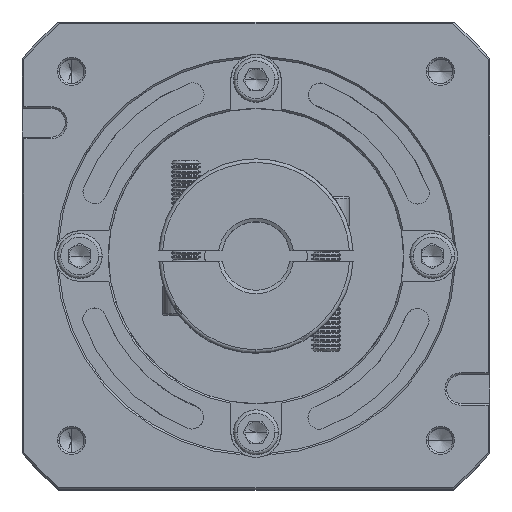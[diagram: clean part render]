
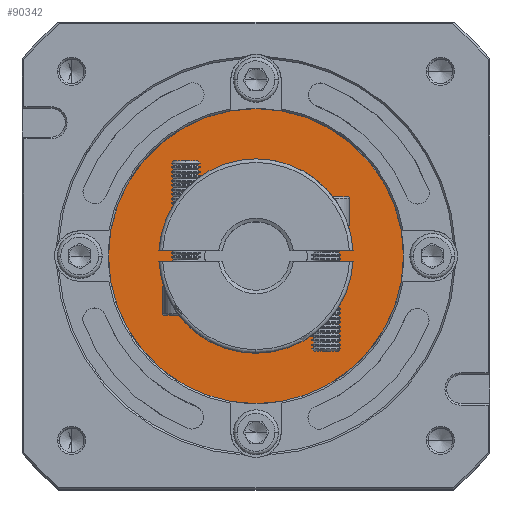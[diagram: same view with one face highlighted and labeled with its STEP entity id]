
A CAD part, top view. The second image highlights one B-rep face of the part: STEP entity #90342.
In plain terms, the highlighted planar face has unit normal (0, 0, 1).
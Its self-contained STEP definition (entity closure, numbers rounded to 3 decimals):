
#69 = ORIENTED_EDGE ( 'NONE', *, *, #48919, .T. ) ;
#1791 = DIRECTION ( 'NONE',  ( 1., 0., 0. ) ) ;
#2302 = ORIENTED_EDGE ( 'NONE', *, *, #65030, .T. ) ;
#12248 = VERTEX_POINT ( 'NONE', #132987 ) ;
#16901 = DIRECTION ( 'NONE',  ( 0., 0., 1. ) ) ;
#18643 = CIRCLE ( 'NONE', #76705, 20. ) ;
#19437 = DIRECTION ( 'NONE',  ( 0., 0., 1. ) ) ;
#21694 = VERTEX_POINT ( 'NONE', #96250 ) ;
#29226 = VERTEX_POINT ( 'NONE', #132739 ) ;
#29517 = CARTESIAN_POINT ( 'NONE',  ( 53.908, 53.71, -30.444 ) ) ;
#34220 = AXIS2_PLACEMENT_3D ( 'NONE', #112854, #16901, #91747 ) ;
#35197 = EDGE_CURVE ( 'NONE', #21694, #29226, #102292, .T. ) ;
#36722 = CARTESIAN_POINT ( 'NONE',  ( 53.908, 53.71, -30.444 ) ) ;
#38086 = DIRECTION ( 'NONE',  ( 1., 0., 0. ) ) ;
#43651 = CIRCLE ( 'NONE', #101881, 20. ) ;
#45244 = AXIS2_PLACEMENT_3D ( 'NONE', #29517, #19437, #103112 ) ;
#48919 = EDGE_CURVE ( 'NONE', #29226, #21694, #92978, .T. ) ;
#52658 = CARTESIAN_POINT ( 'NONE',  ( 53.908, 53.71, -30.444 ) ) ;
#63268 = DIRECTION ( 'NONE',  ( 0., 0., -1. ) ) ;
#65030 = EDGE_CURVE ( 'NONE', #12248, #121953, #43651, .T. ) ;
#67515 = ORIENTED_EDGE ( 'NONE', *, *, #113540, .T. ) ;
#70004 = CARTESIAN_POINT ( 'NONE',  ( 53.908, 53.71, -30.444 ) ) ;
#76705 = AXIS2_PLACEMENT_3D ( 'NONE', #70004, #112247, #133597 ) ;
#90342 = ADVANCED_FACE ( 'NONE', ( #111059, #124337 ), #102172, .T. ) ;
#91747 = DIRECTION ( 'NONE',  ( 1., 0., 0. ) ) ;
#92978 = CIRCLE ( 'NONE', #34220, 41. ) ;
#93097 = AXIS2_PLACEMENT_3D ( 'NONE', #36722, #133395, #38086 ) ;
#96250 = CARTESIAN_POINT ( 'NONE',  ( 12.908, 53.71, -30.444 ) ) ;
#98657 = CARTESIAN_POINT ( 'NONE',  ( 33.908, 53.71, -30.444 ) ) ;
#101881 = AXIS2_PLACEMENT_3D ( 'NONE', #52658, #63268, #1791 ) ;
#102172 = PLANE ( 'NONE',  #45244 ) ;
#102292 = CIRCLE ( 'NONE', #93097, 41. ) ;
#103112 = DIRECTION ( 'NONE',  ( 1., 0., 0. ) ) ;
#111059 = FACE_OUTER_BOUND ( 'NONE', #136157, .T. ) ;
#112247 = DIRECTION ( 'NONE',  ( 0., 0., -1. ) ) ;
#112854 = CARTESIAN_POINT ( 'NONE',  ( 53.908, 53.71, -30.444 ) ) ;
#113540 = EDGE_CURVE ( 'NONE', #121953, #12248, #18643, .T. ) ;
#121953 = VERTEX_POINT ( 'NONE', #98657 ) ;
#124337 = FACE_BOUND ( 'NONE', #131568, .T. ) ;
#131568 = EDGE_LOOP ( 'NONE', ( #2302, #67515 ) ) ;
#132739 = CARTESIAN_POINT ( 'NONE',  ( 94.908, 53.71, -30.444 ) ) ;
#132987 = CARTESIAN_POINT ( 'NONE',  ( 73.908, 53.71, -30.444 ) ) ;
#133395 = DIRECTION ( 'NONE',  ( 0., 0., 1. ) ) ;
#133597 = DIRECTION ( 'NONE',  ( 1., 0., 0. ) ) ;
#135073 = ORIENTED_EDGE ( 'NONE', *, *, #35197, .T. ) ;
#136157 = EDGE_LOOP ( 'NONE', ( #69, #135073 ) ) ;
